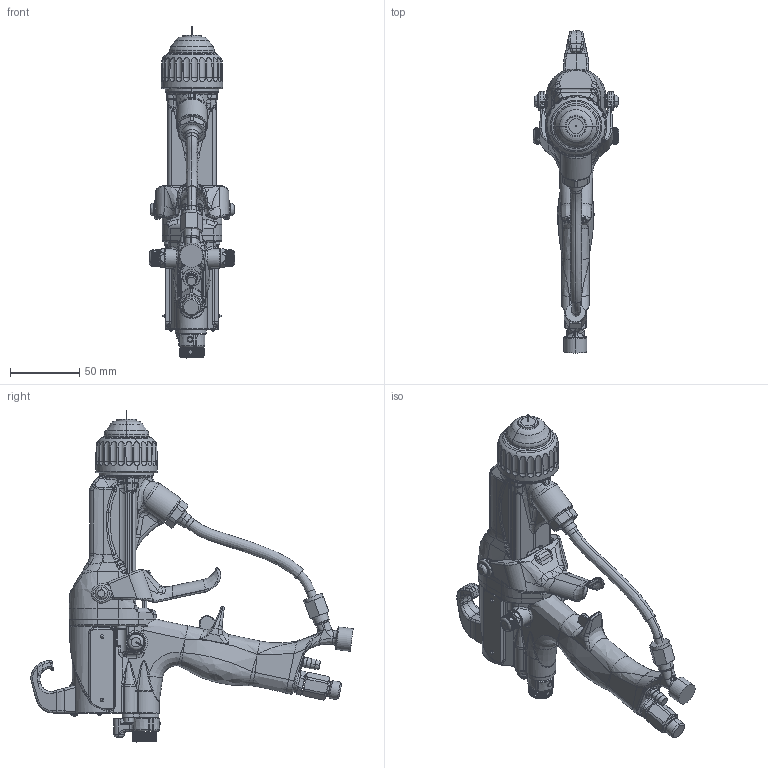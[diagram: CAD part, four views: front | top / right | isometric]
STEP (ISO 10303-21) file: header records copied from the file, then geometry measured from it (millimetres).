
FILE_DESCRIPTION((''),'2;1');
FILE_NAME('L60T11-EN-P_PRT','2020-05-18T18:13:52',('qusrh3'),(''),'CREO PARAMETRIC BY PTC INC, 2019030','CREO PARAMETRIC BY PTC INC, 2019030','');
FILE_SCHEMA(('CONFIG_CONTROL_DESIGN'));
Products named in the file (1): L60T11-EN-P_PRT
Bounding box: 61.79 x 233.22 x 240.32 mm (x, y, z)
Surface area: 91170.8 mm2 (no closed solid volume)
Topology: 0 solids, 64 shells, 2589 faces, 7174 edges, 4510 vertices
Faces by surface type: bspline 838, cylinder 648, plane 565, torus 255, cone 236, sphere 43, extrusion 4
Entity records: 127081 total; most frequent: CARTESIAN_POINT 70117, ORIENTED_EDGE 13001, DIRECTION 9699, EDGE_CURVE 7167, VERTEX_POINT 4510, AXIS2_PLACEMENT_3D 3918, B_SPLINE_CURVE_WITH_KNOTS 3141, EDGE_LOOP 2589
